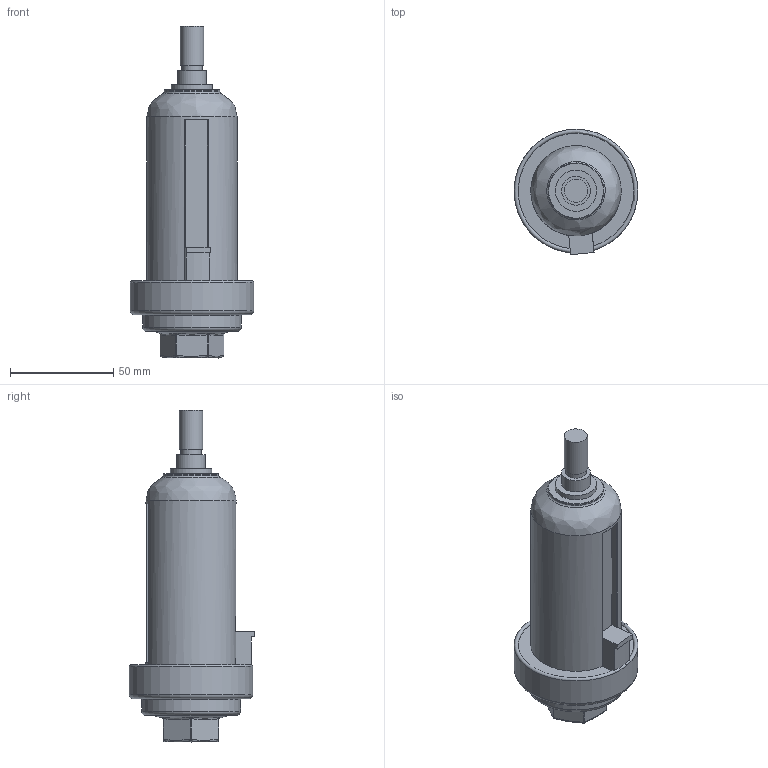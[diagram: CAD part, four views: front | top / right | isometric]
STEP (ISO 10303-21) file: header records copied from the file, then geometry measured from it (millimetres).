
FILE_DESCRIPTION((''),'2;1');
FILE_NAME('K:\ZEICHNG\Kunden Modelle\STEP Dateien\FUTURA Steps\BG2\KA-212 AM.stp','2013-01-24T13:32:59',('HHabich'),(''),'Autodesk Inventor 2013','Autodesk Inventor 2013','');
FILE_SCHEMA(('AUTOMOTIVE_DESIGN { 1 0 10303 214 1 1 1 1 }'));
Length unit declared in the file: millimetre
Products named in the file (1): KA-212 AM
Bounding box: 60 x 60.92 x 161 mm (x, y, z)
Volume: 198229.3 mm3; surface area: 26243.4 mm2
Topology: 1 solids, 1 shells, 88 faces, 201 edges, 117 vertices
Faces by surface type: plane 30, bspline 25, cylinder 20, torus 10, cone 3
Full cylindrical faces by diameter (mm): 10 x1, 11.3 x1, 14 x1, 18.631 x1, 20 x1, 27 x1, 43.8 x1, 48 x1, 60 x1
Entity records: 3238 total; most frequent: CARTESIAN_POINT 1409, ORIENTED_EDGE 340, DIRECTION 306, EDGE_CURVE 170, AXIS2_PLACEMENT_3D 128, EDGE_LOOP 116, VERTEX_POINT 112, STYLED_ITEM 89
